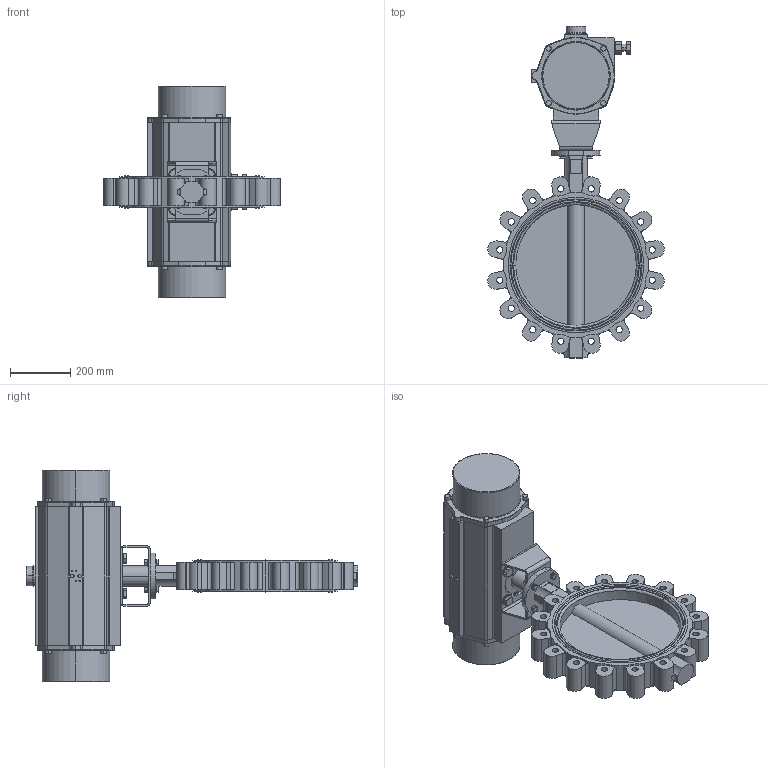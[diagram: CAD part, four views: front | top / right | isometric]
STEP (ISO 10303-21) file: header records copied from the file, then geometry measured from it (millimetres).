
FILE_DESCRIPTION (( 'STEP AP214' ), '1' );
FILE_NAME ('67356.step', '2020-10-23T12:38:58', ( '' ), ( '' ), 'SwSTEP 2.0', 'SolidWorks 2019', '' );
FILE_SCHEMA (( 'AUTOMOTIVE_DESIGN' ));
Length unit declared in the file: millimetre
Products named in the file (11): U-Scheibe DIN 125 A_M20; SR2100-V46_02; 6kt-Schr DIN 933_M20x35; 6kt-Schr DIN 933_M12x40; TL20-0400_M01; MB F16-F12_MB F16-F12 (1.4301); U-Scheibe DIN 125 A_M12; 6kt-Mu DIN 934_M12; U-Scheibe DIN 125 A_M10; 67356; Vierkantadapter VK27-46_4mm gek〉zt
Assembly tree (28 placements, depth 2):
  67356
    TL20-0400_M01
    SR2100-V46_02
    U-Scheibe DIN 125 A_M10  x4
    6kt-Schr DIN 933_M12x40  x4
    MB F16-F12_MB F16-F12 (1.4301)
    6kt-Mu DIN 934_M12  x4
    U-Scheibe DIN 125 A_M12  x4
    6kt-Schr DIN 933_M20x35  x4
    U-Scheibe DIN 125 A_M20  x4
    Vierkantadapter VK27-46_4mm gek〉zt
Bounding box: 584.62 x 1100.5 x 702 mm (x, y, z)
Volume: 52431150.6 mm3; surface area: 2058946.4 mm2
Topology: 29 solids, 29 shells, 1080 faces, 2605 edges, 1648 vertices
Faces by surface type: cylinder 465, plane 452, cone 117, torus 46
Entity records: 27879 total; most frequent: CARTESIAN_POINT 5147, DIRECTION 4551, ORIENTED_EDGE 4034, EDGE_CURVE 2017, AXIS2_PLACEMENT_3D 1802, VERTEX_POINT 1300, CIRCLE 973, VECTOR 947
